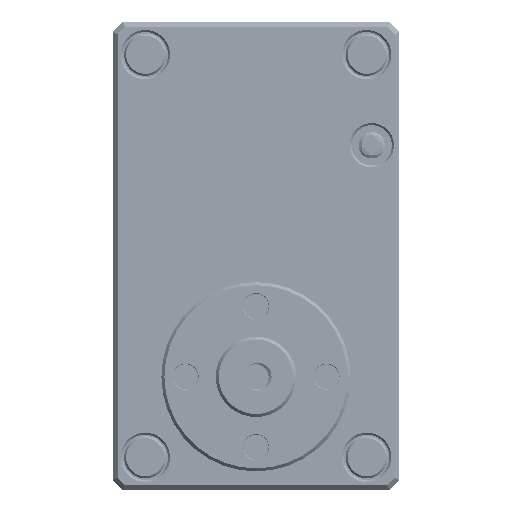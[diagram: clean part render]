
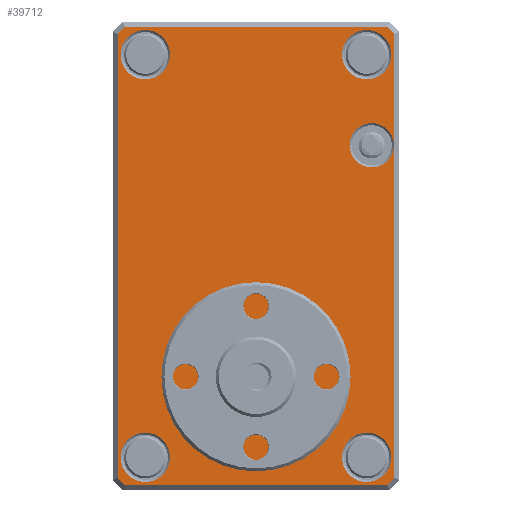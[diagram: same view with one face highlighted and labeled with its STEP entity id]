
A CAD part, front view. The second image highlights one B-rep face of the part: STEP entity #39712.
In plain terms, the highlighted planar face has unit normal (0, -1, 0).
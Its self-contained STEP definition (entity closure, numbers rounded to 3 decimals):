
#885=FACE_BOUND('',#4718,.T.);
#886=FACE_BOUND('',#4719,.T.);
#887=FACE_BOUND('',#4720,.T.);
#888=FACE_BOUND('',#4721,.T.);
#889=FACE_BOUND('',#4722,.T.);
#890=FACE_BOUND('',#4723,.T.);
#1091=PLANE('',#41953);
#2506=FACE_OUTER_BOUND('',#4717,.T.);
#4717=EDGE_LOOP('',(#30284,#30285,#30286,#30287,#30288,#30289,#30290,#30291));
#4718=EDGE_LOOP('',(#30292));
#4719=EDGE_LOOP('',(#30293,#30294));
#4720=EDGE_LOOP('',(#30295));
#4721=EDGE_LOOP('',(#30296));
#4722=EDGE_LOOP('',(#30297));
#4723=EDGE_LOOP('',(#30298));
#6144=CIRCLE('',#41954,3.05);
#6145=CIRCLE('',#41955,2.45);
#6146=CIRCLE('',#41956,2.45);
#6147=CIRCLE('',#41957,2.45);
#6148=CIRCLE('',#41958,2.45);
#6149=CIRCLE('',#41959,2.2);
#6150=CIRCLE('',#41960,2.45);
#10542=LINE('',#200672,#13001);
#10543=LINE('',#200674,#13002);
#10544=LINE('',#200676,#13003);
#10545=LINE('',#200678,#13004);
#10546=LINE('',#200680,#13005);
#10547=LINE('',#200682,#13006);
#10548=LINE('',#200684,#13007);
#10549=LINE('',#200685,#13008);
#13001=VECTOR('',#46676,1.);
#13002=VECTOR('',#46677,26.086);
#13003=VECTOR('',#46678,1.);
#13004=VECTOR('',#46679,44.086);
#13005=VECTOR('',#46680,1.);
#13006=VECTOR('',#46681,26.086);
#13007=VECTOR('',#46682,1.);
#13008=VECTOR('',#46683,44.086);
#16293=VERTEX_POINT('',#200670);
#16294=VERTEX_POINT('',#200671);
#16295=VERTEX_POINT('',#200673);
#16296=VERTEX_POINT('',#200675);
#16297=VERTEX_POINT('',#200677);
#16298=VERTEX_POINT('',#200679);
#16299=VERTEX_POINT('',#200681);
#16300=VERTEX_POINT('',#200683);
#16301=VERTEX_POINT('',#200686);
#16302=VERTEX_POINT('',#200688);
#16303=VERTEX_POINT('',#200689);
#16304=VERTEX_POINT('',#200692);
#16305=VERTEX_POINT('',#200694);
#16306=VERTEX_POINT('',#200696);
#16307=VERTEX_POINT('',#200698);
#21287=EDGE_CURVE('',#16293,#16294,#10542,.T.);
#21288=EDGE_CURVE('',#16293,#16295,#10543,.T.);
#21289=EDGE_CURVE('',#16296,#16295,#10544,.T.);
#21290=EDGE_CURVE('',#16296,#16297,#10545,.T.);
#21291=EDGE_CURVE('',#16298,#16297,#10546,.T.);
#21292=EDGE_CURVE('',#16298,#16299,#10547,.T.);
#21293=EDGE_CURVE('',#16300,#16299,#10548,.T.);
#21294=EDGE_CURVE('',#16300,#16294,#10549,.T.);
#21295=EDGE_CURVE('',#16301,#16301,#6144,.T.);
#21296=EDGE_CURVE('',#16302,#16303,#6145,.T.);
#21297=EDGE_CURVE('',#16303,#16302,#6146,.T.);
#21298=EDGE_CURVE('',#16304,#16304,#6147,.T.);
#21299=EDGE_CURVE('',#16305,#16305,#6148,.T.);
#21300=EDGE_CURVE('',#16306,#16306,#6149,.T.);
#21301=EDGE_CURVE('',#16307,#16307,#6150,.T.);
#30284=ORIENTED_EDGE('',*,*,#21287,.F.);
#30285=ORIENTED_EDGE('',*,*,#21288,.T.);
#30286=ORIENTED_EDGE('',*,*,#21289,.F.);
#30287=ORIENTED_EDGE('',*,*,#21290,.T.);
#30288=ORIENTED_EDGE('',*,*,#21291,.F.);
#30289=ORIENTED_EDGE('',*,*,#21292,.T.);
#30290=ORIENTED_EDGE('',*,*,#21293,.F.);
#30291=ORIENTED_EDGE('',*,*,#21294,.T.);
#30292=ORIENTED_EDGE('',*,*,#21295,.F.);
#30293=ORIENTED_EDGE('',*,*,#21296,.F.);
#30294=ORIENTED_EDGE('',*,*,#21297,.F.);
#30295=ORIENTED_EDGE('',*,*,#21298,.F.);
#30296=ORIENTED_EDGE('',*,*,#21299,.F.);
#30297=ORIENTED_EDGE('',*,*,#21300,.F.);
#30298=ORIENTED_EDGE('',*,*,#21301,.F.);
#39712=ADVANCED_FACE('',(#2506,#885,#886,#887,#888,#889,#890),#1091,.F.);
#41953=AXIS2_PLACEMENT_3D('',#200669,#46674,#46675);
#41954=AXIS2_PLACEMENT_3D('',#200687,#46684,#46685);
#41955=AXIS2_PLACEMENT_3D('',#200690,#46686,#46687);
#41956=AXIS2_PLACEMENT_3D('',#200691,#46688,#46689);
#41957=AXIS2_PLACEMENT_3D('',#200693,#46690,#46691);
#41958=AXIS2_PLACEMENT_3D('',#200695,#46692,#46693);
#41959=AXIS2_PLACEMENT_3D('',#200697,#46694,#46695);
#41960=AXIS2_PLACEMENT_3D('',#200699,#46696,#46697);
#46674=DIRECTION('center_axis',(0.,1.,0.));
#46675=DIRECTION('ref_axis',(1.,0.,0.));
#46676=DIRECTION('',(-0.707,0.,0.707));
#46677=DIRECTION('',(1.,0.,0.));
#46678=DIRECTION('',(-0.707,0.,-0.707));
#46679=DIRECTION('',(0.,0.,1.));
#46680=DIRECTION('',(0.707,0.,-0.707));
#46681=DIRECTION('',(-1.,0.,0.));
#46682=DIRECTION('',(0.707,0.,0.707));
#46683=DIRECTION('',(0.,0.,-1.));
#46684=DIRECTION('center_axis',(0.,-1.,0.));
#46685=DIRECTION('ref_axis',(0.,0.,-1.));
#46686=DIRECTION('center_axis',(0.,-1.,0.));
#46687=DIRECTION('ref_axis',(0.,0.,-1.));
#46688=DIRECTION('center_axis',(0.,-1.,0.));
#46689=DIRECTION('ref_axis',(0.,0.,-1.));
#46690=DIRECTION('center_axis',(0.,-1.,0.));
#46691=DIRECTION('ref_axis',(0.,0.,-1.));
#46692=DIRECTION('center_axis',(0.,-1.,0.));
#46693=DIRECTION('ref_axis',(0.,0.,-1.));
#46694=DIRECTION('center_axis',(0.,-1.,0.));
#46695=DIRECTION('ref_axis',(0.,0.,-1.));
#46696=DIRECTION('center_axis',(0.,-1.,0.));
#46697=DIRECTION('ref_axis',(0.,0.,-1.));
#200669=CARTESIAN_POINT('Origin',(0.,0.,0.));
#200670=CARTESIAN_POINT('',(-13.043,0.,-22.75));
#200671=CARTESIAN_POINT('',(-13.75,0.,-22.043));
#200672=CARTESIAN_POINT('',(-13.043,0.,-22.75));
#200673=CARTESIAN_POINT('',(13.043,0.,-22.75));
#200674=CARTESIAN_POINT('',(-13.043,0.,-22.75));
#200675=CARTESIAN_POINT('',(13.75,0.,-22.043));
#200676=CARTESIAN_POINT('',(13.75,0.,-22.043));
#200677=CARTESIAN_POINT('',(13.75,0.,22.043));
#200678=CARTESIAN_POINT('',(13.75,0.,-22.043));
#200679=CARTESIAN_POINT('',(13.043,0.,22.75));
#200680=CARTESIAN_POINT('',(13.043,0.,22.75));
#200681=CARTESIAN_POINT('',(-13.043,0.,22.75));
#200682=CARTESIAN_POINT('',(13.043,0.,22.75));
#200683=CARTESIAN_POINT('',(-13.75,0.,22.043));
#200684=CARTESIAN_POINT('',(-13.75,0.,22.043));
#200685=CARTESIAN_POINT('',(-13.75,0.,22.043));
#200686=CARTESIAN_POINT('',(0.,0.,-8.95));
#200687=CARTESIAN_POINT('Origin',(0.,0.,-12.));
#200688=CARTESIAN_POINT('',(-11.,0.,22.45));
#200689=CARTESIAN_POINT('',(-11.,0.,17.55));
#200690=CARTESIAN_POINT('Origin',(-11.,0.,20.));
#200691=CARTESIAN_POINT('Origin',(-11.,0.,20.));
#200692=CARTESIAN_POINT('',(-11.,0.,-17.55));
#200693=CARTESIAN_POINT('Origin',(-11.,0.,-20.));
#200694=CARTESIAN_POINT('',(11.,0.,-17.55));
#200695=CARTESIAN_POINT('Origin',(11.,0.,-20.));
#200696=CARTESIAN_POINT('',(11.5,0.,13.2));
#200697=CARTESIAN_POINT('Origin',(11.5,0.,11.));
#200698=CARTESIAN_POINT('',(11.,0.,22.45));
#200699=CARTESIAN_POINT('Origin',(11.,0.,20.));
